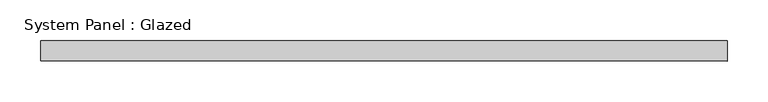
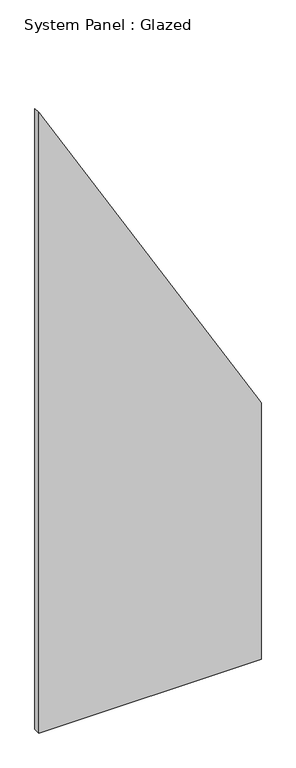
"""IFC4 building model written with IfcOpenShell, lengths in millimetres: plate geometry, System Panel : Glazed."""

from ifc_helpers import new_model, si_unit, frame, origin, place, context, project, spatial, polyline, outline, extrude, source, transform, mapped, element, save


def system_panel_glazed_ca0c7ec9(model_context):
    return source(origin(), model_context, "Body", "SweptSolid", [
        extrude(outline(polyline([(0.0, -422.8955447), (0.0, 422.8955447), (1031.8194519, 422.8955447), (2496.7725934, -422.8955447), (0.0, -422.8955447)])), frame((0.0, -72.5, 0.0), z_axis=(0.0, 1.0, 0.0), x_axis=(0.0, 0.0, 1.0)), (0.0, 0.0, 1.0), 25.0),
    ])


if __name__ == "__main__":
    model = new_model("IFC4")
    model_context = context("Model", 3, world=origin())
    ifc_project = project(units=[si_unit("LENGTHUNIT", "METRE", prefix="MILLI")], contexts=[model_context])
    site = spatial("IfcSite", under=ifc_project)
    building = spatial("IfcBuilding", under=site)
    placement = place(None, origin())
    system_panel_glazed_shape = system_panel_glazed_ca0c7ec9(model_context)
    element("IfcPlate", 1, ObjectType="System Panel : Glazed", at=placement, inside=building, context=model_context, shape_type="MappedRepresentation", body=[
        mapped(system_panel_glazed_shape, transform((0.0, 0.0, 0.0), x_axis=(1.0, 0.0, 0.0), y_axis=(0.0, 1.0, 0.0), z_axis=(0.0, 0.0, 1.0))),
    ])
    save(model, "model.ifc")
